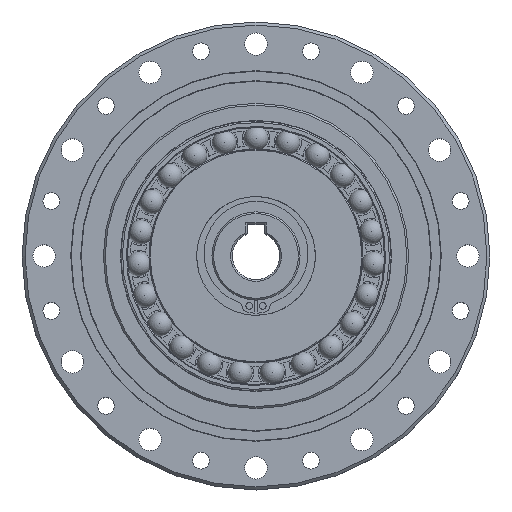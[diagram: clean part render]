
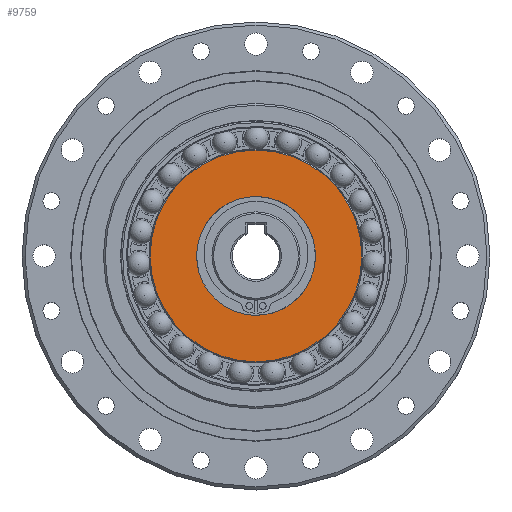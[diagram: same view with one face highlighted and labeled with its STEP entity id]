
A CAD part, top view. The second image highlights one B-rep face of the part: STEP entity #9759.
In plain terms, the highlighted planar face has unit normal (0, 0, 1).
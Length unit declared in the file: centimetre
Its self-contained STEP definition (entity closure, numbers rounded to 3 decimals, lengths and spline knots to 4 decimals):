
#2671=FACE_BOUND($,#3568,.T.);
#2672=FACE_BOUND($,#3569,.T.);
#3568=EDGE_LOOP($,(#8737));
#3569=EDGE_LOOP($,(#8738));
#4252=CIRCLE($,#11024,1.75);
#4253=CIRCLE($,#11025,3.122);
#5090=VERTEX_POINT($,#16936);
#5091=VERTEX_POINT($,#16938);
#6292=EDGE_CURVE($,#5090,#5090,#4252,.T.);
#6293=EDGE_CURVE($,#5091,#5091,#4253,.T.);
#8737=ORIENTED_EDGE($,*,*,#6292,.T.);
#8738=ORIENTED_EDGE($,*,*,#6293,.F.);
#9149=PLANE($,#11023);
#9759=ADVANCED_FACE($,(#2671,#2672),#9149,.T.);
#11023=AXIS2_PLACEMENT_3D($,#16935,#13922,#13923);
#11024=AXIS2_PLACEMENT_3D($,#16937,#13924,#13925);
#11025=AXIS2_PLACEMENT_3D($,#16939,#13926,#13927);
#13922=DIRECTION('center_axis',(0.,0.,
1.));
#13923=DIRECTION('ref_axis',(1.,0.,0.));
#13924=DIRECTION('center_axis',(0.,0.,
-1.));
#13925=DIRECTION('ref_axis',(-1.,0.,0.));
#13926=DIRECTION('center_axis',(0.,0.,
-1.));
#13927=DIRECTION('ref_axis',(0.,-1.,0.));
#16935=CARTESIAN_POINT('Origin',(0.,3.152,5.75));
#16936=CARTESIAN_POINT('',(1.75,0.,5.75));
#16937=CARTESIAN_POINT('Origin',(0.,0.,
5.75));
#16938=CARTESIAN_POINT('',(0.,3.122,5.75));
#16939=CARTESIAN_POINT('Origin',(0.,0.,
5.75));
